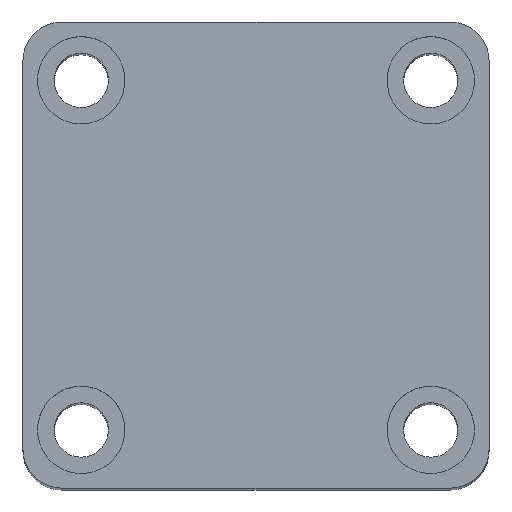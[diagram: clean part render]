
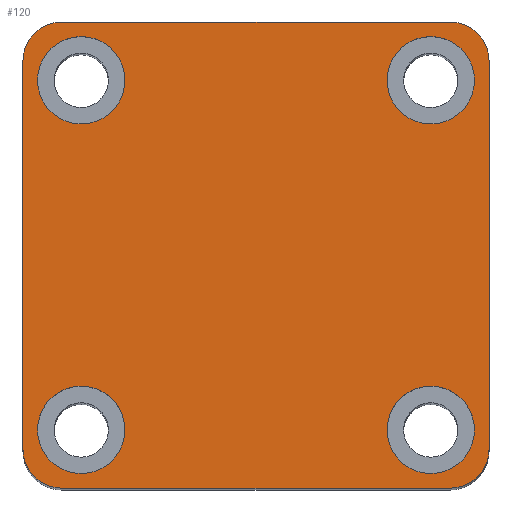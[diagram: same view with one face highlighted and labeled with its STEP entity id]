
A CAD part, top view. The second image highlights one B-rep face of the part: STEP entity #120.
In plain terms, the highlighted planar face has unit normal (0, 0, 1).
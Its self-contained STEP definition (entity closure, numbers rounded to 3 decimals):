
#31 = AXIS2_PLACEMENT_3D ( 'NONE', #2544, #2769, #2767 ) ;
#32 = AXIS2_PLACEMENT_3D ( 'NONE', #2353, #2348, #2755 ) ;
#33 = AXIS2_PLACEMENT_3D ( 'NONE', #2361, #2358, #2356 ) ;
#34 = AXIS2_PLACEMENT_3D ( 'NONE', #2370, #2368, #2374 ) ;
#35 = AXIS2_PLACEMENT_3D ( 'NONE', #2383, #2369, #2382 ) ;
#36 = AXIS2_PLACEMENT_3D ( 'NONE', #2416, #2396, #2395 ) ;
#37 = AXIS2_PLACEMENT_3D ( 'NONE', #2432, #2431, #2422 ) ;
#38 = AXIS2_PLACEMENT_3D ( 'NONE', #2481, #2453, #2469 ) ;
#57 = AXIS2_PLACEMENT_3D ( 'NONE', #1465, #1463, #1462 ) ;
#59 = AXIS2_PLACEMENT_3D ( 'NONE', #1485, #1484, #1483 ) ;
#61 = AXIS2_PLACEMENT_3D ( 'NONE', #1500, #1498, #1497 ) ;
#63 = AXIS2_PLACEMENT_3D ( 'NONE', #1513, #1512, #1511 ) ;
#120 = ADVANCED_FACE ( 'NONE', ( #885, #880, #886, #884, #882 ), #1940, .T. ) ;
#237 = VERTEX_POINT ( 'NONE', #1854 ) ;
#243 = VERTEX_POINT ( 'NONE', #1850 ) ;
#253 = VERTEX_POINT ( 'NONE', #1839 ) ;
#256 = VERTEX_POINT ( 'NONE', #1836 ) ;
#268 = VERTEX_POINT ( 'NONE', #1824 ) ;
#269 = VERTEX_POINT ( 'NONE', #1823 ) ;
#275 = VERTEX_POINT ( 'NONE', #1816 ) ;
#288 = VERTEX_POINT ( 'NONE', #1803 ) ;
#305 = VERTEX_POINT ( 'NONE', #1782 ) ;
#309 = VERTEX_POINT ( 'NONE', #1777 ) ;
#316 = VERTEX_POINT ( 'NONE', #1767 ) ;
#318 = VERTEX_POINT ( 'NONE', #1765 ) ;
#320 = VERTEX_POINT ( 'NONE', #1761 ) ;
#339 = VERTEX_POINT ( 'NONE', #1738 ) ;
#343 = VERTEX_POINT ( 'NONE', #1731 ) ;
#349 = VERTEX_POINT ( 'NONE', #1724 ) ;
#465 = ORIENTED_EDGE ( 'NONE', *, *, #2125, .T. ) ;
#466 = ORIENTED_EDGE ( 'NONE', *, *, #2102, .T. ) ;
#467 = ORIENTED_EDGE ( 'NONE', *, *, #2124, .T. ) ;
#468 = ORIENTED_EDGE ( 'NONE', *, *, #2114, .T. ) ;
#469 = ORIENTED_EDGE ( 'NONE', *, *, #2123, .T. ) ;
#470 = ORIENTED_EDGE ( 'NONE', *, *, #2110, .T. ) ;
#471 = ORIENTED_EDGE ( 'NONE', *, *, #2122, .T. ) ;
#472 = ORIENTED_EDGE ( 'NONE', *, *, #2108, .T. ) ;
#473 = ORIENTED_EDGE ( 'NONE', *, *, #2074, .F. ) ;
#474 = ORIENTED_EDGE ( 'NONE', *, *, #2121, .F. ) ;
#475 = ORIENTED_EDGE ( 'NONE', *, *, #2070, .F. ) ;
#476 = ORIENTED_EDGE ( 'NONE', *, *, #2120, .F. ) ;
#477 = ORIENTED_EDGE ( 'NONE', *, *, #2066, .F. ) ;
#478 = ORIENTED_EDGE ( 'NONE', *, *, #2119, .F. ) ;
#479 = ORIENTED_EDGE ( 'NONE', *, *, #2062, .F. ) ;
#480 = ORIENTED_EDGE ( 'NONE', *, *, #2118, .F. ) ;
#793 = AXIS2_PLACEMENT_3D ( 'NONE', #1936, #1942, #1921 ) ;
#880 = FACE_BOUND ( 'NONE', #926, .T. ) ;
#882 = FACE_OUTER_BOUND ( 'NONE', #923, .T. ) ;
#884 = FACE_BOUND ( 'NONE', #1130, .T. ) ;
#885 = FACE_BOUND ( 'NONE', #981, .T. ) ;
#886 = FACE_BOUND ( 'NONE', #983, .T. ) ;
#923 = EDGE_LOOP ( 'NONE', ( #472, #471, #470, #469, #468, #467, #466, #465 ) ) ;
#926 = EDGE_LOOP ( 'NONE', ( #478, #477 ) ) ;
#981 = EDGE_LOOP ( 'NONE', ( #480, #479 ) ) ;
#983 = EDGE_LOOP ( 'NONE', ( #476, #475 ) ) ;
#1061 = CIRCLE ( 'NONE', #31, 4. ) ;
#1063 = CIRCLE ( 'NONE', #32, 4. ) ;
#1065 = CIRCLE ( 'NONE', #33, 4. ) ;
#1068 = CIRCLE ( 'NONE', #34, 4. ) ;
#1070 = CIRCLE ( 'NONE', #35, 4.5 ) ;
#1072 = CIRCLE ( 'NONE', #36, 4.5 ) ;
#1074 = CIRCLE ( 'NONE', #37, 4.5 ) ;
#1078 = CIRCLE ( 'NONE', #38, 4.5 ) ;
#1087 = VECTOR ( 'NONE', #2551, 1000. ) ;
#1092 = LINE ( 'NONE', #2558, #1087 ) ;
#1102 = VECTOR ( 'NONE', #2578, 1000. ) ;
#1108 = LINE ( 'NONE', #2581, #1102 ) ;
#1130 = EDGE_LOOP ( 'NONE', ( #474, #473 ) ) ;
#1140 = VECTOR ( 'NONE', #2594, 1000. ) ;
#1150 = LINE ( 'NONE', #2595, #1140 ) ;
#1188 = VECTOR ( 'NONE', #2646, 1000. ) ;
#1190 = LINE ( 'NONE', #2652, #1188 ) ;
#1229 = CIRCLE ( 'NONE', #57, 4.5 ) ;
#1235 = CIRCLE ( 'NONE', #59, 4.5 ) ;
#1241 = CIRCLE ( 'NONE', #61, 4.5 ) ;
#1247 = CIRCLE ( 'NONE', #63, 4.5 ) ;
#1462 = DIRECTION ( 'NONE',  ( 1., 0., 0. ) ) ;
#1463 = DIRECTION ( 'NONE',  ( 0., 0., 1. ) ) ;
#1465 = CARTESIAN_POINT ( 'NONE',  ( 18., -18., 110. ) ) ;
#1483 = DIRECTION ( 'NONE',  ( 1., 0., 0. ) ) ;
#1484 = DIRECTION ( 'NONE',  ( 0., 0., 1. ) ) ;
#1485 = CARTESIAN_POINT ( 'NONE',  ( -18., -18., 110. ) ) ;
#1497 = DIRECTION ( 'NONE',  ( 1., 0., 0. ) ) ;
#1498 = DIRECTION ( 'NONE',  ( 0., 0., 1. ) ) ;
#1500 = CARTESIAN_POINT ( 'NONE',  ( 18., 18., 110. ) ) ;
#1511 = DIRECTION ( 'NONE',  ( 1., 0., 0. ) ) ;
#1512 = DIRECTION ( 'NONE',  ( 0., 0., 1. ) ) ;
#1513 = CARTESIAN_POINT ( 'NONE',  ( -18., 18., 110. ) ) ;
#1724 = CARTESIAN_POINT ( 'NONE',  ( -24., 20., 110. ) ) ;
#1731 = CARTESIAN_POINT ( 'NONE',  ( -13.5, -18., 110. ) ) ;
#1738 = CARTESIAN_POINT ( 'NONE',  ( -22.5, 18., 110. ) ) ;
#1761 = CARTESIAN_POINT ( 'NONE',  ( 20., 24., 110. ) ) ;
#1765 = CARTESIAN_POINT ( 'NONE',  ( 20., -24., 110. ) ) ;
#1767 = CARTESIAN_POINT ( 'NONE',  ( 13.5, 18., 110. ) ) ;
#1777 = CARTESIAN_POINT ( 'NONE',  ( -20., -24., 110. ) ) ;
#1782 = CARTESIAN_POINT ( 'NONE',  ( -24., -20., 110. ) ) ;
#1803 = CARTESIAN_POINT ( 'NONE',  ( 22.5, 18., 110. ) ) ;
#1816 = CARTESIAN_POINT ( 'NONE',  ( -22.5, -18., 110. ) ) ;
#1823 = CARTESIAN_POINT ( 'NONE',  ( 13.5, -18., 110. ) ) ;
#1824 = CARTESIAN_POINT ( 'NONE',  ( 22.5, -18., 110. ) ) ;
#1836 = CARTESIAN_POINT ( 'NONE',  ( -20., 24., 110. ) ) ;
#1839 = CARTESIAN_POINT ( 'NONE',  ( 24., -20., 110. ) ) ;
#1850 = CARTESIAN_POINT ( 'NONE',  ( 24., 20., 110. ) ) ;
#1854 = CARTESIAN_POINT ( 'NONE',  ( -13.5, 18., 110. ) ) ;
#1921 = DIRECTION ( 'NONE',  ( 1., 0., 0. ) ) ;
#1936 = CARTESIAN_POINT ( 'NONE',  ( 0., 0., 110. ) ) ;
#1940 = PLANE ( 'NONE',  #793 ) ;
#1942 = DIRECTION ( 'NONE',  ( 0., 0., 1. ) ) ;
#2062 = EDGE_CURVE ( 'NONE', #339, #237, #1247, .T. ) ;
#2066 = EDGE_CURVE ( 'NONE', #316, #288, #1241, .T. ) ;
#2070 = EDGE_CURVE ( 'NONE', #275, #343, #1235, .T. ) ;
#2074 = EDGE_CURVE ( 'NONE', #269, #268, #1229, .T. ) ;
#2102 = EDGE_CURVE ( 'NONE', #253, #243, #1190, .T. ) ;
#2108 = EDGE_CURVE ( 'NONE', #320, #256, #1150, .T. ) ;
#2110 = EDGE_CURVE ( 'NONE', #349, #305, #1108, .T. ) ;
#2114 = EDGE_CURVE ( 'NONE', #309, #318, #1092, .T. ) ;
#2118 = EDGE_CURVE ( 'NONE', #237, #339, #1078, .T. ) ;
#2119 = EDGE_CURVE ( 'NONE', #288, #316, #1074, .T. ) ;
#2120 = EDGE_CURVE ( 'NONE', #343, #275, #1072, .T. ) ;
#2121 = EDGE_CURVE ( 'NONE', #268, #269, #1070, .T. ) ;
#2122 = EDGE_CURVE ( 'NONE', #256, #349, #1068, .T. ) ;
#2123 = EDGE_CURVE ( 'NONE', #305, #309, #1065, .T. ) ;
#2124 = EDGE_CURVE ( 'NONE', #318, #253, #1063, .T. ) ;
#2125 = EDGE_CURVE ( 'NONE', #243, #320, #1061, .T. ) ;
#2348 = DIRECTION ( 'NONE',  ( 0., 0., 1. ) ) ;
#2353 = CARTESIAN_POINT ( 'NONE',  ( 20., -20., 110. ) ) ;
#2356 = DIRECTION ( 'NONE',  ( 1., 0., 0. ) ) ;
#2358 = DIRECTION ( 'NONE',  ( 0., 0., 1. ) ) ;
#2361 = CARTESIAN_POINT ( 'NONE',  ( -20., -20., 110. ) ) ;
#2368 = DIRECTION ( 'NONE',  ( 0., 0., 1. ) ) ;
#2369 = DIRECTION ( 'NONE',  ( 0., 0., 1. ) ) ;
#2370 = CARTESIAN_POINT ( 'NONE',  ( -20., 20., 110. ) ) ;
#2374 = DIRECTION ( 'NONE',  ( 1., 0., 0. ) ) ;
#2382 = DIRECTION ( 'NONE',  ( 1., 0., 0. ) ) ;
#2383 = CARTESIAN_POINT ( 'NONE',  ( 18., -18., 110. ) ) ;
#2395 = DIRECTION ( 'NONE',  ( 1., 0., 0. ) ) ;
#2396 = DIRECTION ( 'NONE',  ( 0., 0., 1. ) ) ;
#2416 = CARTESIAN_POINT ( 'NONE',  ( -18., -18., 110. ) ) ;
#2422 = DIRECTION ( 'NONE',  ( 1., 0., 0. ) ) ;
#2431 = DIRECTION ( 'NONE',  ( 0., 0., 1. ) ) ;
#2432 = CARTESIAN_POINT ( 'NONE',  ( 18., 18., 110. ) ) ;
#2453 = DIRECTION ( 'NONE',  ( 0., 0., 1. ) ) ;
#2469 = DIRECTION ( 'NONE',  ( 1., 0., 0. ) ) ;
#2481 = CARTESIAN_POINT ( 'NONE',  ( -18., 18., 110. ) ) ;
#2544 = CARTESIAN_POINT ( 'NONE',  ( 20., 20., 110. ) ) ;
#2551 = DIRECTION ( 'NONE',  ( 1., 0., 0. ) ) ;
#2558 = CARTESIAN_POINT ( 'NONE',  ( -24., -24., 110. ) ) ;
#2578 = DIRECTION ( 'NONE',  ( 0., -1., 0. ) ) ;
#2581 = CARTESIAN_POINT ( 'NONE',  ( -24., 24., 110. ) ) ;
#2594 = DIRECTION ( 'NONE',  ( -1., 0., 0. ) ) ;
#2595 = CARTESIAN_POINT ( 'NONE',  ( -24., 24., 110. ) ) ;
#2646 = DIRECTION ( 'NONE',  ( 0., 1., 0. ) ) ;
#2652 = CARTESIAN_POINT ( 'NONE',  ( 24., 24., 110. ) ) ;
#2755 = DIRECTION ( 'NONE',  ( 1., 0., 0. ) ) ;
#2767 = DIRECTION ( 'NONE',  ( 1., 0., 0. ) ) ;
#2769 = DIRECTION ( 'NONE',  ( 0., 0., 1. ) ) ;
